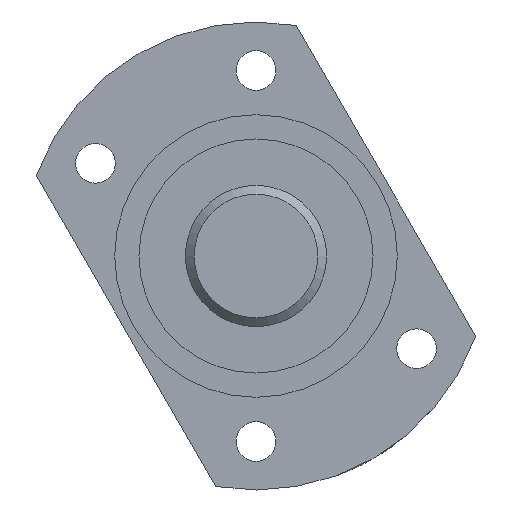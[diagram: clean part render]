
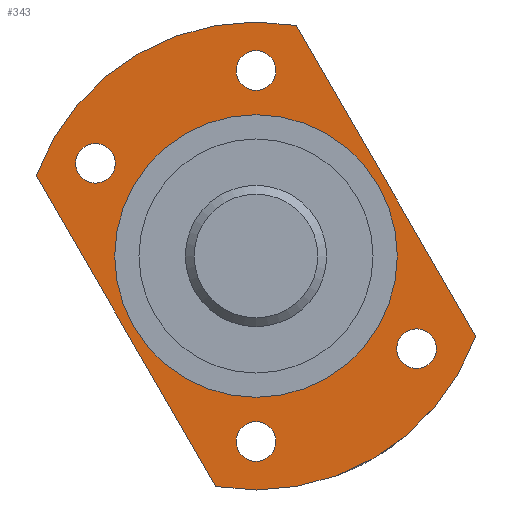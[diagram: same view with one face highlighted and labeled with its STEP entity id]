
A CAD part, left-side view. The second image highlights one B-rep face of the part: STEP entity #343.
In plain terms, the highlighted planar face has unit normal (-1, 0, 0).
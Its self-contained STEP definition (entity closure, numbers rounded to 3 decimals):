
#2 = FACE_OUTER_BOUND ( 'NONE', #156, .T. ) ;
#9 = DIRECTION ( 'NONE',  ( -1., 0., 0. ) ) ;
#56 = EDGE_CURVE ( 'NONE', #740, #588, #379, .T. ) ;
#58 = DIRECTION ( 'NONE',  ( 0., -0.866, 0.5 ) ) ;
#79 = ORIENTED_EDGE ( 'NONE', *, *, #151, .T. ) ;
#81 = FACE_BOUND ( 'NONE', #1208, .T. ) ;
#86 = CARTESIAN_POINT ( 'NONE',  ( 122.82, 36.782, -10.5 ) ) ;
#115 = CIRCLE ( 'NONE', #883, 26.5 ) ;
#128 = EDGE_CURVE ( 'NONE', #317, #317, #689, .T. ) ;
#138 = DIRECTION ( 'NONE',  ( -1., 0., 0. ) ) ;
#140 = AXIS2_PLACEMENT_3D ( 'NONE', #161, #1195, #573 ) ;
#145 = VECTOR ( 'NONE', #1272, 1000. ) ;
#151 = EDGE_CURVE ( 'NONE', #1138, #1138, #724, .T. ) ;
#155 = CARTESIAN_POINT ( 'NONE',  ( 122.82, 69.691, -8.5 ) ) ;
#156 = EDGE_LOOP ( 'NONE', ( #1304, #552, #1010, #767 ) ) ;
#161 = CARTESIAN_POINT ( 'NONE',  ( 122.82, 73.155, 10.5 ) ) ;
#207 = AXIS2_PLACEMENT_3D ( 'NONE', #1124, #9, #1045 ) ;
#211 = PLANE ( 'NONE',  #272 ) ;
#213 = CARTESIAN_POINT ( 'NONE',  ( 122.82, 71.207, 11.625 ) ) ;
#220 = CARTESIAN_POINT ( 'NONE',  ( 122.82, 54.969, 0. ) ) ;
#243 = CARTESIAN_POINT ( 'NONE',  ( 122.82, 38.969, 0. ) ) ;
#255 = AXIS2_PLACEMENT_3D ( 'NONE', #86, #385, #58 ) ;
#272 = AXIS2_PLACEMENT_3D ( 'NONE', #1083, #567, #981 ) ;
#304 = EDGE_CURVE ( 'NONE', #966, #966, #637, .T. ) ;
#317 = VERTEX_POINT ( 'NONE', #1238 ) ;
#343 = ADVANCED_FACE ( 'NONE', ( #828, #2, #755, #81, #515, #409 ), #211, .T. ) ;
#353 = ORIENTED_EDGE ( 'NONE', *, *, #128, .F. ) ;
#359 = CIRCLE ( 'NONE', #970, 2.25 ) ;
#373 = CARTESIAN_POINT ( 'NONE',  ( 122.82, 54.969, -21. ) ) ;
#374 = CARTESIAN_POINT ( 'NONE',  ( 122.82, 79.856, 9.105 ) ) ;
#379 = LINE ( 'NONE', #155, #437 ) ;
#385 = DIRECTION ( 'NONE',  ( 1., 0., 0. ) ) ;
#409 = FACE_BOUND ( 'NONE', #992, .T. ) ;
#437 = VECTOR ( 'NONE', #688, 1000. ) ;
#448 = CARTESIAN_POINT ( 'NONE',  ( 122.82, 54.969, 21. ) ) ;
#450 = ORIENTED_EDGE ( 'NONE', *, *, #610, .F. ) ;
#490 = VERTEX_POINT ( 'NONE', #820 ) ;
#515 = FACE_BOUND ( 'NONE', #716, .T. ) ;
#520 = AXIS2_PLACEMENT_3D ( 'NONE', #373, #697, #1288 ) ;
#524 = DIRECTION ( 'NONE',  ( -1., 0., 0. ) ) ;
#529 = CIRCLE ( 'NONE', #207, 26.5 ) ;
#552 = ORIENTED_EDGE ( 'NONE', *, *, #817, .T. ) ;
#560 = ORIENTED_EDGE ( 'NONE', *, *, #304, .F. ) ;
#565 = DIRECTION ( 'NONE',  ( 0., -1., 0. ) ) ;
#567 = DIRECTION ( 'NONE',  ( -1., 0., 0. ) ) ;
#573 = DIRECTION ( 'NONE',  ( 0., -0.866, 0.5 ) ) ;
#582 = CARTESIAN_POINT ( 'NONE',  ( 122.82, 59.527, -26.105 ) ) ;
#588 = VERTEX_POINT ( 'NONE', #582 ) ;
#610 = EDGE_CURVE ( 'NONE', #1255, #1255, #359, .T. ) ;
#636 = EDGE_CURVE ( 'NONE', #995, #490, #1294, .T. ) ;
#637 = CIRCLE ( 'NONE', #1319, 16. ) ;
#649 = DIRECTION ( 'NONE',  ( 0., -1., 0. ) ) ;
#667 = CIRCLE ( 'NONE', #255, 2.25 ) ;
#688 = DIRECTION ( 'NONE',  ( 0., -0.5, -0.866 ) ) ;
#689 = CIRCLE ( 'NONE', #520, 2.25 ) ;
#697 = DIRECTION ( 'NONE',  ( -1., 0., 0. ) ) ;
#701 = EDGE_LOOP ( 'NONE', ( #450 ) ) ;
#716 = EDGE_LOOP ( 'NONE', ( #1131 ) ) ;
#724 = CIRCLE ( 'NONE', #140, 2.25 ) ;
#725 = EDGE_CURVE ( 'NONE', #1277, #1277, #667, .T. ) ;
#740 = VERTEX_POINT ( 'NONE', #374 ) ;
#744 = CARTESIAN_POINT ( 'NONE',  ( 122.82, 53.02, 22.125 ) ) ;
#755 = FACE_BOUND ( 'NONE', #701, .T. ) ;
#767 = ORIENTED_EDGE ( 'NONE', *, *, #1021, .T. ) ;
#817 = EDGE_CURVE ( 'NONE', #588, #995, #529, .T. ) ;
#820 = CARTESIAN_POINT ( 'NONE',  ( 122.82, 50.411, 26.105 ) ) ;
#828 = FACE_BOUND ( 'NONE', #897, .T. ) ;
#883 = AXIS2_PLACEMENT_3D ( 'NONE', #1080, #138, #565 ) ;
#897 = EDGE_LOOP ( 'NONE', ( #560 ) ) ;
#966 = VERTEX_POINT ( 'NONE', #243 ) ;
#970 = AXIS2_PLACEMENT_3D ( 'NONE', #448, #983, #1092 ) ;
#981 = DIRECTION ( 'NONE',  ( 0., 1., 0. ) ) ;
#983 = DIRECTION ( 'NONE',  ( -1., 0., 0. ) ) ;
#992 = EDGE_LOOP ( 'NONE', ( #353 ) ) ;
#995 = VERTEX_POINT ( 'NONE', #1087 ) ;
#1010 = ORIENTED_EDGE ( 'NONE', *, *, #636, .T. ) ;
#1021 = EDGE_CURVE ( 'NONE', #490, #740, #115, .T. ) ;
#1045 = DIRECTION ( 'NONE',  ( 0., -1., 0. ) ) ;
#1051 = CARTESIAN_POINT ( 'NONE',  ( 122.82, 34.834, -9.375 ) ) ;
#1061 = CARTESIAN_POINT ( 'NONE',  ( 122.82, 40.247, 8.5 ) ) ;
#1080 = CARTESIAN_POINT ( 'NONE',  ( 122.82, 54.969, 0. ) ) ;
#1083 = CARTESIAN_POINT ( 'NONE',  ( 122.82, 68.825, -8. ) ) ;
#1087 = CARTESIAN_POINT ( 'NONE',  ( 122.82, 30.082, -9.105 ) ) ;
#1092 = DIRECTION ( 'NONE',  ( 0., -0.866, 0.5 ) ) ;
#1124 = CARTESIAN_POINT ( 'NONE',  ( 122.82, 54.969, 0. ) ) ;
#1131 = ORIENTED_EDGE ( 'NONE', *, *, #725, .T. ) ;
#1138 = VERTEX_POINT ( 'NONE', #213 ) ;
#1195 = DIRECTION ( 'NONE',  ( 1., 0., 0. ) ) ;
#1208 = EDGE_LOOP ( 'NONE', ( #79 ) ) ;
#1238 = CARTESIAN_POINT ( 'NONE',  ( 122.82, 53.02, -19.875 ) ) ;
#1255 = VERTEX_POINT ( 'NONE', #744 ) ;
#1272 = DIRECTION ( 'NONE',  ( 0., 0.5, 0.866 ) ) ;
#1277 = VERTEX_POINT ( 'NONE', #1051 ) ;
#1288 = DIRECTION ( 'NONE',  ( 0., -0.866, 0.5 ) ) ;
#1294 = LINE ( 'NONE', #1061, #145 ) ;
#1304 = ORIENTED_EDGE ( 'NONE', *, *, #56, .T. ) ;
#1319 = AXIS2_PLACEMENT_3D ( 'NONE', #220, #524, #649 ) ;
